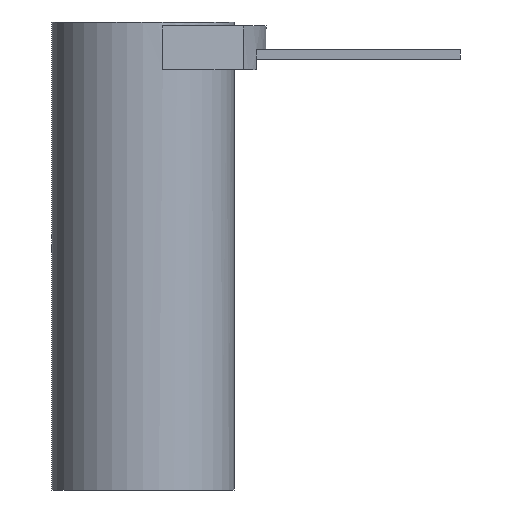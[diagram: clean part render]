
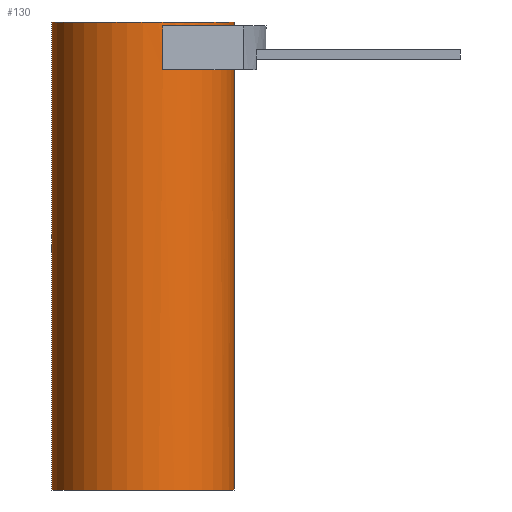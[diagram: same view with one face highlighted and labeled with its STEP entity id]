
A CAD part, front view. The second image highlights one B-rep face of the part: STEP entity #130.
In plain terms, the highlighted cylindrical face has radius 11.5 mm (diameter 23 mm), a partial arc.
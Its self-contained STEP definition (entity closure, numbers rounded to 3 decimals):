
#113=CYLINDRICAL_SURFACE('',#597,11.5);
#130=ADVANCED_FACE('',(#175),#113,.T.);
#175=FACE_OUTER_BOUND('',#198,.T.);
#198=EDGE_LOOP('',(#301,#302,#303,#304,#305,#306,#307,#308,#309,#310));
#224=CIRCLE('',#577,11.5);
#225=CIRCLE('',#580,11.5);
#230=CIRCLE('',#590,11.5);
#233=CIRCLE('',#595,11.5);
#234=CIRCLE('',#596,11.5);
#301=ORIENTED_EDGE('',*,*,#452,.F.);
#302=ORIENTED_EDGE('',*,*,#457,.F.);
#303=ORIENTED_EDGE('',*,*,#458,.T.);
#304=ORIENTED_EDGE('',*,*,#455,.T.);
#305=ORIENTED_EDGE('',*,*,#459,.F.);
#306=ORIENTED_EDGE('',*,*,#453,.F.);
#307=ORIENTED_EDGE('',*,*,#438,.F.);
#308=ORIENTED_EDGE('',*,*,#435,.F.);
#309=ORIENTED_EDGE('',*,*,#434,.F.);
#310=ORIENTED_EDGE('',*,*,#448,.F.);
#388=VERTEX_POINT('',#794);
#390=VERTEX_POINT('',#798);
#391=VERTEX_POINT('',#802);
#393=VERTEX_POINT('',#808);
#398=VERTEX_POINT('',#825);
#400=VERTEX_POINT('',#833);
#401=VERTEX_POINT('',#837);
#402=VERTEX_POINT('',#839);
#403=VERTEX_POINT('',#841);
#404=VERTEX_POINT('',#843);
#434=EDGE_CURVE('',#390,#388,#224,.T.);
#435=EDGE_CURVE('',#388,#391,#498,.T.);
#438=EDGE_CURVE('',#391,#393,#225,.T.);
#448=EDGE_CURVE('',#398,#390,#508,.T.);
#452=EDGE_CURVE('',#400,#398,#230,.T.);
#453=EDGE_CURVE('',#393,#401,#510,.T.);
#455=EDGE_CURVE('',#403,#402,#511,.T.);
#457=EDGE_CURVE('',#404,#400,#512,.T.);
#458=EDGE_CURVE('',#404,#403,#233,.T.);
#459=EDGE_CURVE('',#401,#402,#234,.T.);
#498=LINE('',#801,#537);
#508=LINE('',#827,#547);
#510=LINE('',#836,#549);
#511=LINE('',#840,#550);
#512=LINE('',#844,#551);
#537=VECTOR('',#647,1.);
#547=VECTOR('',#671,1.);
#549=VECTOR('',#685,1.);
#550=VECTOR('',#688,1.);
#551=VECTOR('',#691,1.);
#577=AXIS2_PLACEMENT_3D('',#799,#643,#644);
#580=AXIS2_PLACEMENT_3D('',#807,#652,#653);
#590=AXIS2_PLACEMENT_3D('',#834,#681,#682);
#595=AXIS2_PLACEMENT_3D('',#846,#694,#695);
#596=AXIS2_PLACEMENT_3D('',#847,#696,#697);
#597=AXIS2_PLACEMENT_3D('',#848,#698,#699);
#643=DIRECTION('',(0.,0.,1.));
#644=DIRECTION('',(-1.,0.,0.));
#647=DIRECTION('',(0.,0.,1.));
#652=DIRECTION('',(0.,0.,1.));
#653=DIRECTION('',(0.565,-0.825,0.));
#671=DIRECTION('',(0.,0.,-1.));
#681=DIRECTION('',(0.,0.,-1.));
#682=DIRECTION('',(-1.,0.,0.));
#685=DIRECTION('',(0.,0.,-1.));
#688=DIRECTION('',(0.,0.,-1.));
#691=DIRECTION('',(0.,0.,-1.));
#694=DIRECTION('',(0.,0.,-1.));
#695=DIRECTION('',(0.,1.,0.));
#696=DIRECTION('',(0.,0.,-1.));
#697=DIRECTION('',(0.,1.,0.));
#698=DIRECTION('',(0.,0.,-1.));
#699=DIRECTION('',(0.,-1.,0.));
#794=CARTESIAN_POINT('',(9.811,-6.,53.));
#798=CARTESIAN_POINT('',(2.47,-11.232,53.));
#799=CARTESIAN_POINT('',(0.,0.,53.));
#801=CARTESIAN_POINT('',(9.811,-6.,52.98));
#802=CARTESIAN_POINT('',(9.811,-6.,55.5));
#807=CARTESIAN_POINT('',(0.,0.,55.5));
#808=CARTESIAN_POINT('',(11.5,0.,55.5));
#825=CARTESIAN_POINT('',(2.47,-11.232,58.5));
#827=CARTESIAN_POINT('',(2.47,-11.232,59.02));
#833=CARTESIAN_POINT('',(11.5,0.,58.5));
#834=CARTESIAN_POINT('',(0.,0.,58.5));
#836=CARTESIAN_POINT('',(11.5,0.,0.));
#837=CARTESIAN_POINT('',(11.5,0.,0.));
#839=CARTESIAN_POINT('',(-11.5,0.,0.));
#840=CARTESIAN_POINT('',(-11.5,0.,0.));
#841=CARTESIAN_POINT('',(-11.5,0.,59.));
#843=CARTESIAN_POINT('',(11.5,0.,59.));
#844=CARTESIAN_POINT('',(11.5,0.,0.));
#846=CARTESIAN_POINT('',(0.,0.,59.));
#847=CARTESIAN_POINT('',(0.,0.,0.));
#848=CARTESIAN_POINT('',(0.,0.,59.));
